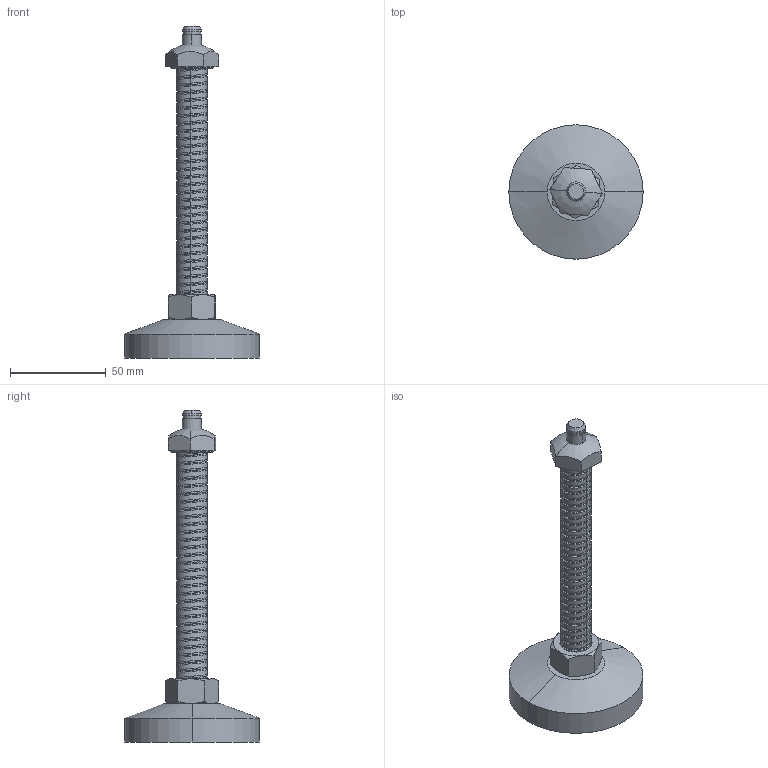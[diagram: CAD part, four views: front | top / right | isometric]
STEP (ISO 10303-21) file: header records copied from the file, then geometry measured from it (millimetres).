
FILE_DESCRIPTION (( 'STEP AP203' ), '1' );
FILE_NAME ('FS-105-2-16-L.STEP', '2015-11-23T02:28:45', ( '' ), ( '' ), 'SwSTEP 2.0', 'SolidWorks 2014', '' );
FILE_SCHEMA (( 'CONFIG_CONTROL_DESIGN' ));
Length unit declared in the file: millimetre
Products named in the file (4): M16螺帽-5; FS-105-2-16-L圓鐵蓋; DT-M16X150L-10調整螺絲; FS-105-2-16-L
Assembly tree (3 placements, depth 2):
  FS-105-2-16-L
    M16螺帽-5
    FS-105-2-16-L圓鐵蓋
    DT-M16X150L-10調整螺絲
Bounding box: 70 x 70 x 173 mm (x, y, z)
Volume: 101592.1 mm3; surface area: 27427.6 mm2
Topology: 3 solids, 3 shells, 173 faces, 445 edges, 282 vertices
Faces by surface type: cylinder 97, cone 43, plane 23, bspline 10
Entity records: 17819 total; most frequent: CARTESIAN_POINT 13714, ORIENTED_EDGE 890, DIRECTION 682, EDGE_CURVE 445, VERTEX_POINT 282, AXIS2_PLACEMENT_3D 265, EDGE_LOOP 179, ADVANCED_FACE 173
